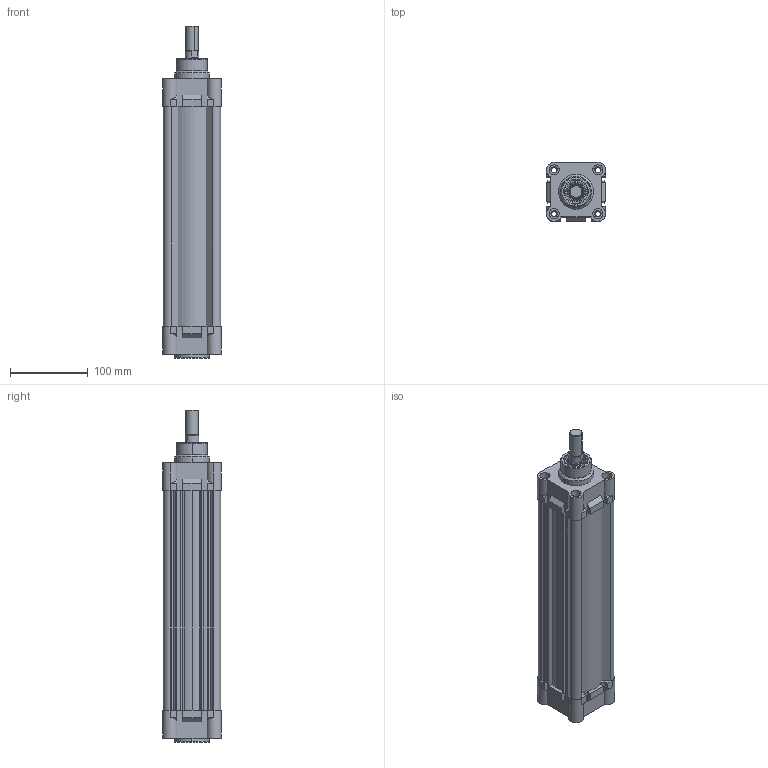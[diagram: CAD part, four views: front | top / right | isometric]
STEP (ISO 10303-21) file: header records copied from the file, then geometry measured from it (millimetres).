
FILE_DESCRIPTION (( 'STEP AP214' ), '1' );
FILE_NAME ('RIC_63_250_WEB.STEP', '2020-07-18T16:34:08', ( '' ), ( '' ), 'SwSTEP 2.0', 'SolidWorks 2018', '' );
FILE_SCHEMA (( 'AUTOMOTIVE_DESIGN' ));
Length unit declared in the file: millimetre
Products named in the file (7): ric63onkapak; ric63bogazkecesi; 20_K_MIL_WEB; ric63yastikkecesi; RIC_63_250_WEB; ric63arkakapak; 63_BORU_WEB
Assembly tree (7 placements, depth 2):
  RIC_63_250_WEB
    63_BORU_WEB
    ric63onkapak
    ric63arkakapak
    ric63bogazkecesi
    ric63yastikkecesi  x2
    20_K_MIL_WEB
Bounding box: 76 x 76 x 428 mm (x, y, z)
Volume: 821492.9 mm3; surface area: 276575.8 mm2
Topology: 7 solids, 7 shells, 709 faces, 1751 edges, 1102 vertices
Faces by surface type: plane 280, cylinder 220, torus 134, cone 56, bspline 19
Entity records: 21075 total; most frequent: CARTESIAN_POINT 4906, DIRECTION 3090, ORIENTED_EDGE 2910, EDGE_CURVE 1455, AXIS2_PLACEMENT_3D 1135, VERTEX_POINT 925, VECTOR 820, LINE 820
